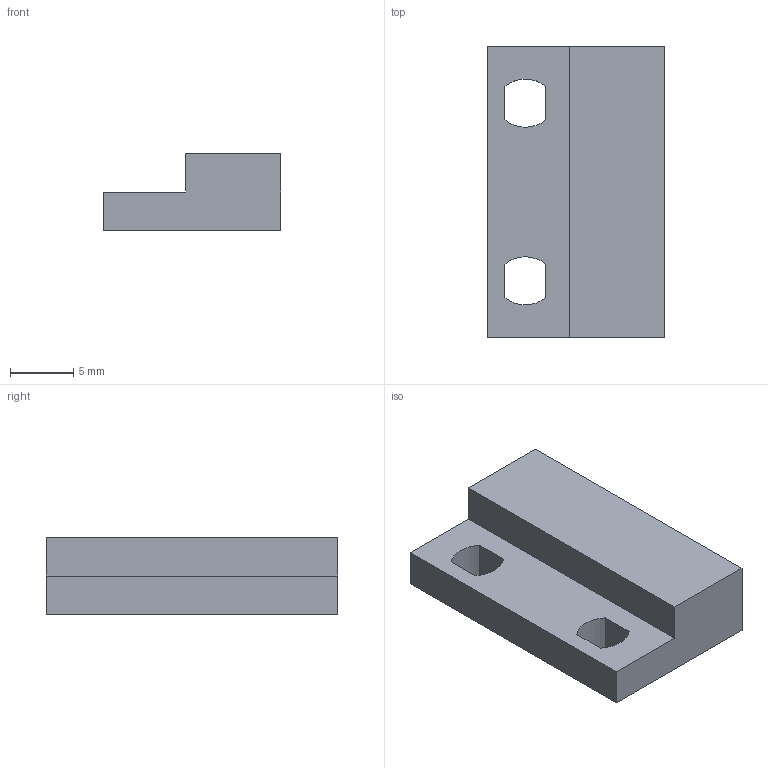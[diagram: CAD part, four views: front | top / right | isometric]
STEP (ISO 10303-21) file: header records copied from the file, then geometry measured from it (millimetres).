
FILE_DESCRIPTION((''),'2;1');
FILE_NAME('C:\Vault_local\Designs\Stock\3D pour clients\préparations\2D3D 505 A.stp','2009-08-05T11:46:23',('Georges THOLLOT ','Responsable ','Mthodes et Industrialisation',' Tl : +33 (0)4 77 53 90 27','gthollot@celduc.com'),('Celduc r e l a i s','5, rue Ampre, BP 30004','42290 SORBIERS - France','Fax. : +33 (0)4 77 53 85 51','N siret 353 310 519 00015','ISO 9001 N QUAL/1993/1106b','www.celduc.com'),'Autodesk Inventor 2009','Autodesk Inventor 2009','');
FILE_SCHEMA(('AUTOMOTIVE_DESIGN { 1 0 10303 214 1 1 1 1 }'));
Length unit declared in the file: millimetre
Products named in the file (1): PA320000
Bounding box: 14 x 23 x 6 mm (x, y, z)
Volume: 1386.2 mm3; surface area: 1104.8 mm2
Topology: 1 solids, 1 shells, 21 faces, 54 edges, 36 vertices
Faces by surface type: plane 17, cylinder 4
Entity records: 700 total; most frequent: CARTESIAN_POINT 112, ORIENTED_EDGE 108, DIRECTION 106, EDGE_CURVE 54, VECTOR 46, LINE 46, VERTEX_POINT 36, AXIS2_PLACEMENT_3D 30
